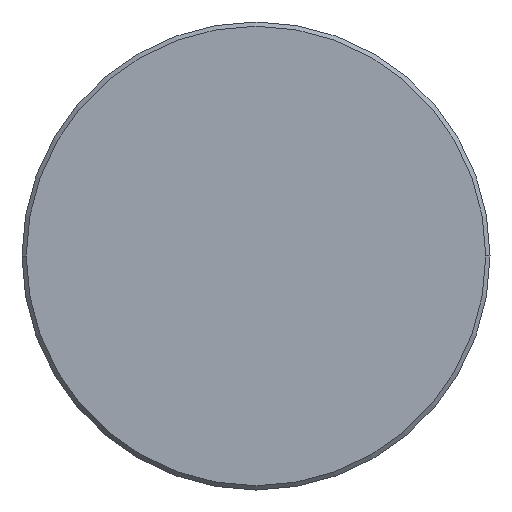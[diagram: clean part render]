
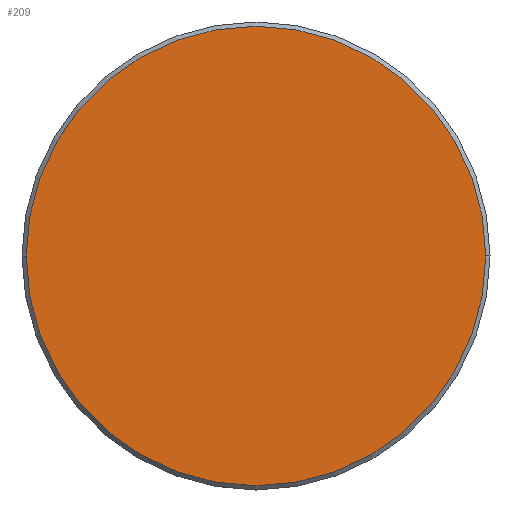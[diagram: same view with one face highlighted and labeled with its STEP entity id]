
A CAD part, left-side view. The second image highlights one B-rep face of the part: STEP entity #209.
In plain terms, the highlighted planar face has unit normal (-1, 0, 0).
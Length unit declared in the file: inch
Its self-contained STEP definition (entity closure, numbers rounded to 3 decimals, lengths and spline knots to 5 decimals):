
#18 = AXIS2_PLACEMENT_3D ( 'NONE', #336, #334, #217 ) ;
#23 = DIRECTION ( 'NONE',  ( 0., -1., 0. ) ) ;
#28 = AXIS2_PLACEMENT_3D ( 'NONE', #138, #344, #23 ) ;
#37 = ORIENTED_EDGE ( 'NONE', *, *, #58, .T. ) ;
#51 = VERTEX_POINT ( 'NONE', #195 ) ;
#58 = EDGE_CURVE ( 'NONE', #51, #134, #200, .T. ) ;
#120 = CARTESIAN_POINT ( 'NONE',  ( 0., 0.21475, 0. ) ) ;
#134 = VERTEX_POINT ( 'NONE', #120 ) ;
#138 = CARTESIAN_POINT ( 'NONE',  ( 0., 0., 0. ) ) ;
#152 = AXIS2_PLACEMENT_3D ( 'NONE', #374, #259, #371 ) ;
#165 = ORIENTED_EDGE ( 'NONE', *, *, #339, .T. ) ;
#171 = FACE_OUTER_BOUND ( 'NONE', #192, .T. ) ;
#190 = CIRCLE ( 'NONE', #18, 0.21475 ) ;
#192 = EDGE_LOOP ( 'NONE', ( #165, #37 ) ) ;
#195 = CARTESIAN_POINT ( 'NONE',  ( 0., -0.21475, 0. ) ) ;
#198 = PLANE ( 'NONE',  #152 ) ;
#200 = CIRCLE ( 'NONE', #28, 0.21475 ) ;
#209 = ADVANCED_FACE ( 'NONE', ( #171 ), #198, .T. ) ;
#217 = DIRECTION ( 'NONE',  ( 0., -1., 0. ) ) ;
#259 = DIRECTION ( 'NONE',  ( -1., 0., 0. ) ) ;
#334 = DIRECTION ( 'NONE',  ( -1., 0., 0. ) ) ;
#336 = CARTESIAN_POINT ( 'NONE',  ( 0., 0., 0. ) ) ;
#339 = EDGE_CURVE ( 'NONE', #134, #51, #190, .T. ) ;
#344 = DIRECTION ( 'NONE',  ( -1., 0., 0. ) ) ;
#371 = DIRECTION ( 'NONE',  ( 0., -1., 0. ) ) ;
#374 = CARTESIAN_POINT ( 'NONE',  ( 0., 0., 0. ) ) ;
